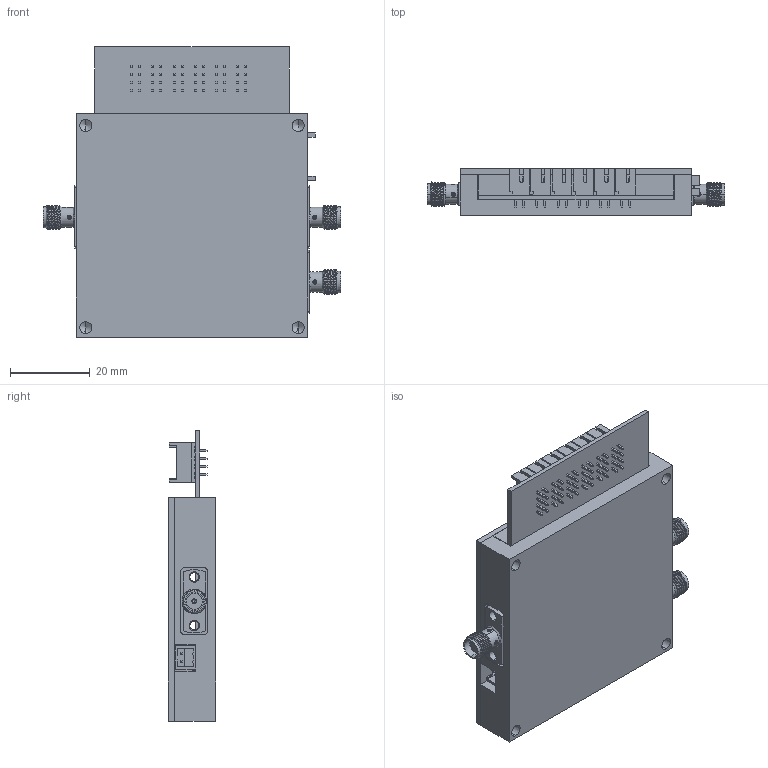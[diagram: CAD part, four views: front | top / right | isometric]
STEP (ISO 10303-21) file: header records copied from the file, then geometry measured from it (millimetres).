
FILE_DESCRIPTION (( 'STEP AP203' ), '1' );
FILE_NAME ('122010 Assembly with Components.STEP', '2020-12-04T07:49:21', ( 'Adaptru' ), ( 'Microsoft' ), 'SwSTEP 2.0', 'SolidWorks 2012', '' );
FILE_SCHEMA (( 'CONFIG_CONTROL_DESIGN' ));
Length unit declared in the file: millimetre
Products named in the file (11): 122010 Assembly with Components; DF11-8DP-2DSA; DF11-8DP-2DSA_X_8A_S_H_X_97_S__; DF3-2P-2DS; DF11-10DP-2DS; DF11-10DP-2DS_X_8A_S_H_X_97_S__; 3010 PCB; 142_1701_201; 122010_Fence_02; 122010_Cover_02; 122010_Body_02
Assembly tree (17 placements, depth 3):
  122010 Assembly with Components
    122010_Body_02
    122010_Cover_02
    122010_Fence_02
    142_1701_201  x3
    3010 PCB
    DF11-10DP-2DS
      DF11-10DP-2DS_X_8A_S_H_X_97_S__
    DF3-2P-2DS
    DF11-8DP-2DSA  x6
      DF11-8DP-2DSA_X_8A_S_H_X_97_S__
Bounding box: 74.8 x 11.81 x 72.9 mm (x, y, z)
Volume: 22466.5 mm3; surface area: 30748.9 mm2
Topology: 15 solids, 15 shells, 2136 faces, 5360 edges, 3350 vertices
Faces by surface type: plane 1727, cylinder 250, cone 102, bspline 57
Entity records: 33707 total; most frequent: CARTESIAN_POINT 8281, ORIENTED_EDGE 5038, DIRECTION 4803, EDGE_CURVE 2519, LINE 2051, VECTOR 2051, VERTEX_POINT 1594, AXIS2_PLACEMENT_3D 1376
